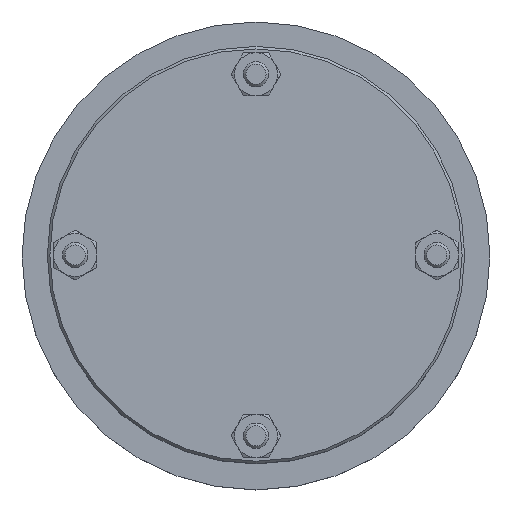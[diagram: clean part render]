
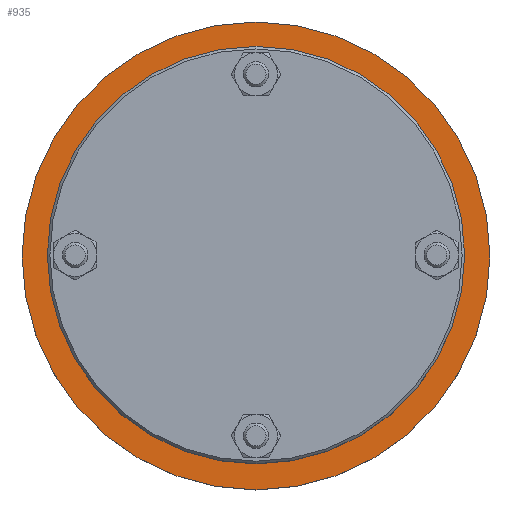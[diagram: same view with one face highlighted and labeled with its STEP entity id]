
A CAD part, top view. The second image highlights one B-rep face of the part: STEP entity #935.
In plain terms, the highlighted planar face has unit normal (0, 0, 1).
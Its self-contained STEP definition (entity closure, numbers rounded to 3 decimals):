
#935=ADVANCED_FACE('',(#3471,#3473,#3475,#3477,#3479,#3481),#3483,.T.);
#3471=FACE_BOUND('',#3472,.T.);
#3472=EDGE_LOOP('',(#5427));
#3473=FACE_BOUND('',#3474,.T.);
#3474=EDGE_LOOP('',(#5428));
#3475=FACE_BOUND('',#3476,.T.);
#3476=EDGE_LOOP('',(#5429));
#3477=FACE_BOUND('',#3478,.T.);
#3478=EDGE_LOOP('',(#5430));
#3479=FACE_BOUND('',#3480,.T.);
#3480=EDGE_LOOP('',(#5431));
#3481=FACE_BOUND('',#3482,.T.);
#3482=EDGE_LOOP('',(#5432));
#3483=PLANE('',#3484);
#3484=AXIS2_PLACEMENT_3D('',#3485,#3486,#3487);
#3485=CARTESIAN_POINT('',(0.,0.,20.));
#3486=DIRECTION('',(0.,0.,1.));
#3487=DIRECTION('',(1.,0.,0.));
#5427=ORIENTED_EDGE('',*,*,#6473,.T.);
#5428=ORIENTED_EDGE('',*,*,#6447,.F.);
#5429=ORIENTED_EDGE('',*,*,#6474,.T.);
#5430=ORIENTED_EDGE('',*,*,#6475,.T.);
#5431=ORIENTED_EDGE('',*,*,#6476,.T.);
#5432=ORIENTED_EDGE('',*,*,#6477,.T.);
#6447=EDGE_CURVE('',#7199,#7199,#7200,.T.);
#6473=EDGE_CURVE('',#7227,#7227,#7228,.T.);
#6474=EDGE_CURVE('',#7229,#7229,#7230,.T.);
#6475=EDGE_CURVE('',#7231,#7231,#7232,.T.);
#6476=EDGE_CURVE('',#7233,#7233,#7234,.T.);
#6477=EDGE_CURVE('',#7235,#7235,#7236,.T.);
#7199=VERTEX_POINT('',#11185);
#7200=CIRCLE('',#11186,55.5);
#7227=VERTEX_POINT('',#11291);
#7228=CIRCLE('',#11292,92.5);
#7229=VERTEX_POINT('',#11296);
#7230=CIRCLE('',#11297,9.);
#7231=VERTEX_POINT('',#11301);
#7232=CIRCLE('',#11302,9.);
#7233=VERTEX_POINT('',#11306);
#7234=CIRCLE('',#11307,9.);
#7235=VERTEX_POINT('',#11311);
#7236=CIRCLE('',#11312,9.);
#11185=CARTESIAN_POINT('',(55.5,0.,20.));
#11186=AXIS2_PLACEMENT_3D('',#11187,#11188,#11189);
#11187=CARTESIAN_POINT('',(0.,0.,20.));
#11188=DIRECTION('',(0.,0.,1.));
#11189=DIRECTION('',(1.,0.,0.));
#11291=CARTESIAN_POINT('',(92.5,0.,20.));
#11292=AXIS2_PLACEMENT_3D('',#11293,#11294,#11295);
#11293=CARTESIAN_POINT('',(0.,0.,20.));
#11294=DIRECTION('',(0.,0.,1.));
#11295=DIRECTION('',(1.,0.,0.));
#11296=CARTESIAN_POINT('',(60.265,-51.265,20.));
#11297=AXIS2_PLACEMENT_3D('',#11298,#11299,#11300);
#11298=CARTESIAN_POINT('',(51.265,-51.265,20.));
#11299=DIRECTION('',(0.,0.,-1.));
#11300=DIRECTION('',(1.,0.,0.));
#11301=CARTESIAN_POINT('',(-51.265,-60.265,20.));
#11302=AXIS2_PLACEMENT_3D('',#11303,#11304,#11305);
#11303=CARTESIAN_POINT('',(-51.265,-51.265,20.));
#11304=DIRECTION('',(0.,0.,-1.));
#11305=DIRECTION('',(0.,-1.,0.));
#11306=CARTESIAN_POINT('',(-60.265,51.265,20.));
#11307=AXIS2_PLACEMENT_3D('',#11308,#11309,#11310);
#11308=CARTESIAN_POINT('',(-51.265,51.265,20.));
#11309=DIRECTION('',(0.,0.,-1.));
#11310=DIRECTION('',(-1.,0.,0.));
#11311=CARTESIAN_POINT('',(51.265,60.265,20.));
#11312=AXIS2_PLACEMENT_3D('',#11313,#11314,#11315);
#11313=CARTESIAN_POINT('',(51.265,51.265,20.));
#11314=DIRECTION('',(0.,0.,-1.));
#11315=DIRECTION('',(0.,1.,0.));
